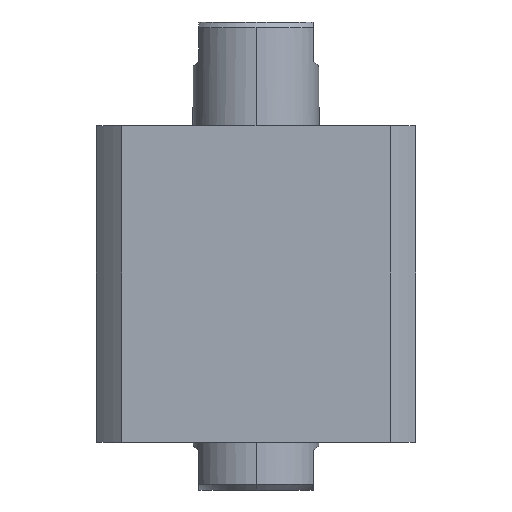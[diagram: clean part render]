
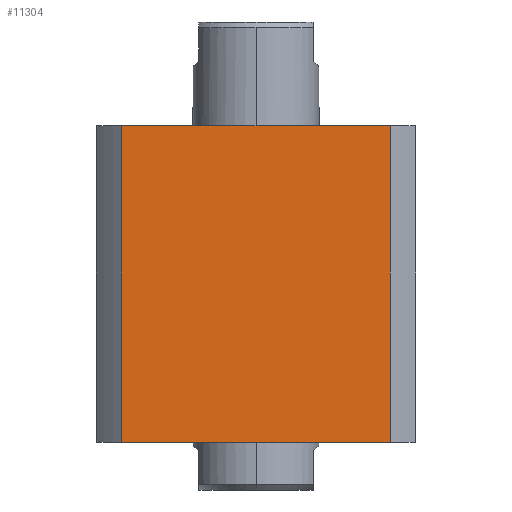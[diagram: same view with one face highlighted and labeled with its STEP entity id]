
A CAD part, front view. The second image highlights one B-rep face of the part: STEP entity #11304.
In plain terms, the highlighted planar face has unit normal (0, -1, 0) as drawn and (1, 0, 0) by its records, which use the part's own axes.
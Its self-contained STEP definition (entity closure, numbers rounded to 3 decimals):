
#31 = ORIENTED_EDGE ( 'NONE', *, *, #5351, .T. ) ;
#870 = ORIENTED_EDGE ( 'NONE', *, *, #14344, .F. ) ;
#1478 = VECTOR ( 'NONE', #14751, 1000. ) ;
#1569 = CARTESIAN_POINT ( 'NONE',  ( 57., 47.971, -2887. ) ) ;
#1609 = CARTESIAN_POINT ( 'NONE',  ( 57., -47.971, 0. ) ) ;
#1790 = DIRECTION ( 'NONE',  ( -1., 0., 0. ) ) ;
#2965 = CARTESIAN_POINT ( 'NONE',  ( 57., 57., 113. ) ) ;
#3008 = VERTEX_POINT ( 'NONE', #12049 ) ;
#3727 = FACE_OUTER_BOUND ( 'NONE', #14961, .T. ) ;
#4189 = AXIS2_PLACEMENT_3D ( 'NONE', #2965, #1790, #10303 ) ;
#4469 = CARTESIAN_POINT ( 'NONE',  ( 57., 47.971, 113. ) ) ;
#4736 = LINE ( 'NONE', #9872, #1478 ) ;
#5038 = EDGE_CURVE ( 'NONE', #6584, #3008, #4736, .T. ) ;
#5351 = EDGE_CURVE ( 'NONE', #6584, #13062, #6049, .T. ) ;
#5476 = DIRECTION ( 'NONE',  ( 0., 1., 0. ) ) ;
#6049 = LINE ( 'NONE', #15200, #12505 ) ;
#6584 = VERTEX_POINT ( 'NONE', #1609 ) ;
#6788 = LINE ( 'NONE', #10825, #15720 ) ;
#7877 = PLANE ( 'NONE',  #4189 ) ;
#8778 = VERTEX_POINT ( 'NONE', #4469 ) ;
#8907 = VECTOR ( 'NONE', #14910, 1000. ) ;
#9054 = CARTESIAN_POINT ( 'NONE',  ( 57., 47.971, 0. ) ) ;
#9872 = CARTESIAN_POINT ( 'NONE',  ( 57., -47.971, -2887. ) ) ;
#10040 = ORIENTED_EDGE ( 'NONE', *, *, #5038, .F. ) ;
#10303 = DIRECTION ( 'NONE',  ( 0., -1., 0. ) ) ;
#10670 = ORIENTED_EDGE ( 'NONE', *, *, #15499, .F. ) ;
#10825 = CARTESIAN_POINT ( 'NONE',  ( 57., 57., 113. ) ) ;
#11304 = ADVANCED_FACE ( 'NONE', ( #3727 ), #7877, .F. ) ;
#12049 = CARTESIAN_POINT ( 'NONE',  ( 57., -47.971, 113. ) ) ;
#12505 = VECTOR ( 'NONE', #5476, 1000. ) ;
#13062 = VERTEX_POINT ( 'NONE', #9054 ) ;
#14344 = EDGE_CURVE ( 'NONE', #8778, #13062, #14967, .T. ) ;
#14361 = DIRECTION ( 'NONE',  ( 0., 1., 0. ) ) ;
#14751 = DIRECTION ( 'NONE',  ( 0., 0., 1. ) ) ;
#14910 = DIRECTION ( 'NONE',  ( 0., 0., -1. ) ) ;
#14961 = EDGE_LOOP ( 'NONE', ( #10040, #31, #870, #10670 ) ) ;
#14967 = LINE ( 'NONE', #1569, #8907 ) ;
#15200 = CARTESIAN_POINT ( 'NONE',  ( 57., 57., 0. ) ) ;
#15499 = EDGE_CURVE ( 'NONE', #3008, #8778, #6788, .T. ) ;
#15720 = VECTOR ( 'NONE', #14361, 1000. ) ;
